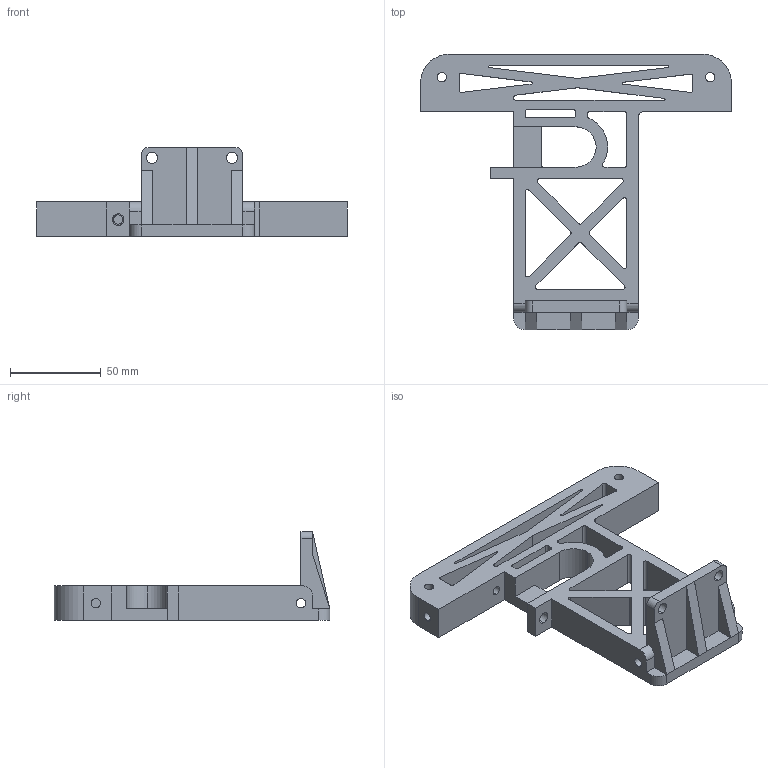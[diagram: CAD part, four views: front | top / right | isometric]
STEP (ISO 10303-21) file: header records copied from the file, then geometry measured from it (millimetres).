
FILE_DESCRIPTION (( 'STEP AP203' ), '1' );
FILE_NAME ('Mounting Bracket.STEP', '2017-11-08T01:05:41', ( '' ), ( '' ), 'SwSTEP 2.0', 'SolidWorks 2016', '' );
FILE_SCHEMA (( 'CONFIG_CONTROL_DESIGN' ));
Length unit declared in the file: inch
Products named in the file (1): Mounting Bracket
Bounding box: 171.45 x 151.97 x 49.02 mm (x, y, z)
Volume: 165692.5 mm3; surface area: 60872.6 mm2
Topology: 1 solids, 1 shells, 141 faces, 401 edges, 264 vertices
Faces by surface type: plane 72, cylinder 69
Entity records: 4760 total; most frequent: DIRECTION 823, CARTESIAN_POINT 807, ORIENTED_EDGE 802, EDGE_CURVE 401, AXIS2_PLACEMENT_3D 280, VERTEX_POINT 264, LINE 263, VECTOR 263
